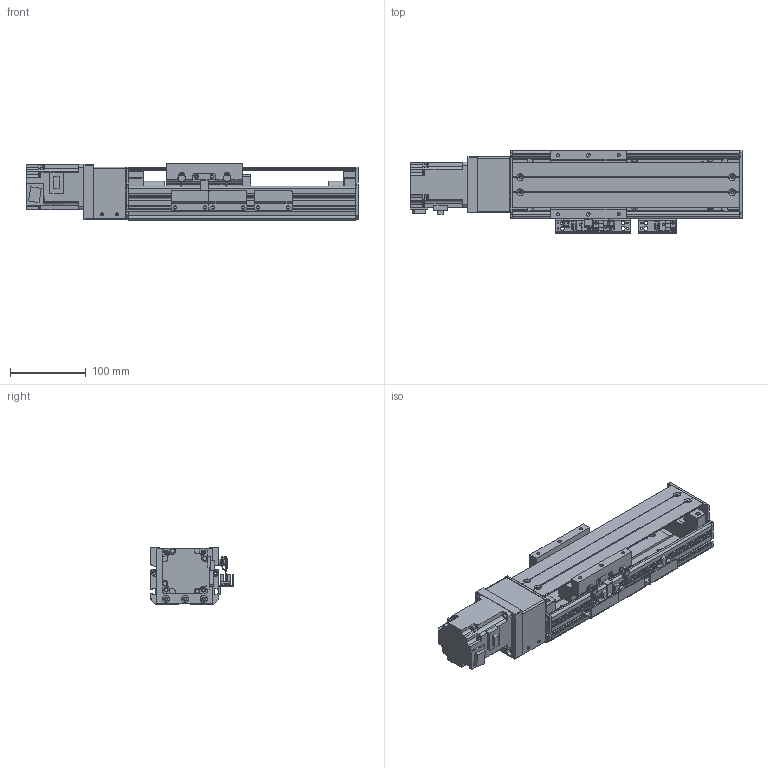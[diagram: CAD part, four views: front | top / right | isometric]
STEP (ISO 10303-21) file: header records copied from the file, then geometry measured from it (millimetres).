
FILE_DESCRIPTION(/* description */ (''),/* implementation_level */ '2;1');
FILE_NAME(/* name */ '\\192.168.0.160\disk1\HAN SHIN Master\B-설계부문\C-표준\B-2024년\BC02-표준도면\+로봇 개선표준도면\표준 승인도 작업 폴더\3D\HG90\HG90직렬\HG90-S20-N1B-0100-R10.stp',/* time_stamp */ '2024-02-16T10:48:44+09:00',/* author */ ('User'),/* organization */ (''),/* preprocessor_version */ 'ST-DEVELOPER v18.1',/* originating_system */ 'Autodesk Inventor 2022',/* authorisation */ '');
FILE_SCHEMA (('AUTOMOTIVE_DESIGN { 1 0 10303 214 3 1 1 }'));
Length unit declared in the file: millimetre
Products named in the file (20): HG90-S20-N1B-0500-R10 - 간소화; HR90 BASE 100W 1BLOCK; HR90 FRONT BLOCK; HR90 REAR BLOCK TENSION; HR90 REAR COVER-TENSION; HG4UPCOV002; HR90 FRRONT COVER-COUPLING; HR120 SENSOR DOG; HG90 S MOTOR PLATE-B; HG90 S MOTOR PLATE-M; hg-kr23_; COUPLING COVER; HG90STOPPER - 27L; HG90STOPPER - 20L; hsr_ftht_A-M6F_grease_nipple_joint; NIPPLE CAP(신규); HR90 TABLE; LMKE1520 NUT; SENSOR BRK(EE-SX674A); EE_SX674A
Assembly tree (25 placements, depth 2):
  HG90-S20-N1B-0500-R10 - 간소화
    HR90 BASE 100W 1BLOCK
    HR90 FRONT BLOCK
    HR90 REAR BLOCK TENSION
    HR90 REAR COVER-TENSION
    HG4UPCOV002
    EE_SX674A  x3
    SENSOR BRK(EE-SX674A)  x3
    HR90 FRRONT COVER-COUPLING
    HR120 SENSOR DOG
    HG90 S MOTOR PLATE-B
    HG90 S MOTOR PLATE-M
    hg-kr23_
    COUPLING COVER
    HG90STOPPER - 27L
    HG90STOPPER - 20L
    hsr_ftht_A-M6F_grease_nipple_joint  x2
    NIPPLE CAP(신규)  x2
    HR90 TABLE
    LMKE1520 NUT
Bounding box: 438.6 x 109 x 75 mm (x, y, z)
Volume: 1140249.1 mm3; surface area: 390179.1 mm2
Topology: 25 solids, 25 shells, 1350 faces, 3623 edges, 2375 vertices
Faces by surface type: plane 671, cylinder 522, cone 121, sphere 16, torus 12, bspline 8
Full cylindrical faces by diameter (mm): 2 x4, 2.459 x14, 3 x4, 3.242 x20, 3.5 x6, 4 x4, 4.134 x43, 4.5 x16, 4.917 x5, 5 x32, 5.5 x27, 5.6 x10, 5.8 x4, 5.9 x8, 6 x6, 6.5 x4, 9.5 x23, 14 x1, 15 x3, 17 x1, 22 x1, 25 x1, 28 x1, 32 x2, 33.7 x1, 34 x1, 40 x1, 46 x1, 50 x2
Entity records: 36634 total; most frequent: CARTESIAN_POINT 7198, DIRECTION 6099, ORIENTED_EDGE 5802, EDGE_CURVE 2901, AXIS2_PLACEMENT_3D 2190, VERTEX_POINT 1936, LINE 1719, VECTOR 1719
